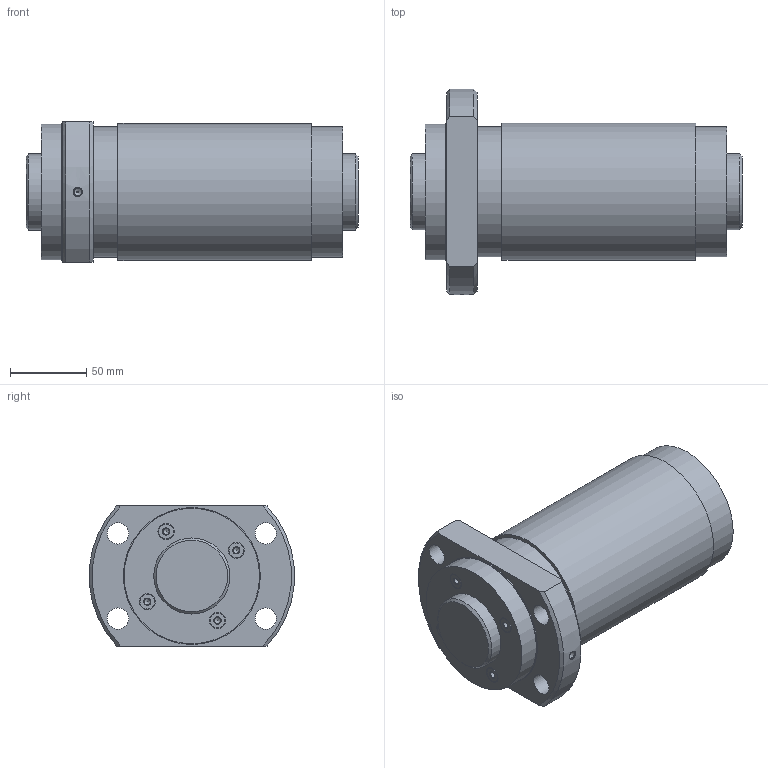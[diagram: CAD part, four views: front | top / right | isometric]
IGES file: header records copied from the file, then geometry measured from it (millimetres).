
Start section: Data from Parasolid IGES Translator 26.0.171, Copyright(c) 2006 Siemens PLM Software. All Rights Reserved.
Global section: file name: WGF50100-3G1+218LC3_0_13_0_0.igs; native system: By Siemens PLM Incorporated; preprocessor: XPlus GENERIC/IGES 26.0.171; author: Noname; organization: Noname; date: 20250116.062847; units: millimetre
Bounding box: 218 x 134.77 x 92 mm (x, y, z)
Surface area: 152223.6 mm2 (no closed solid volume)
Topology: 0 solids, 0 shells, 65 faces, 262 edges, 200 vertices
Faces by surface type: revolution 46, extrusion 19
